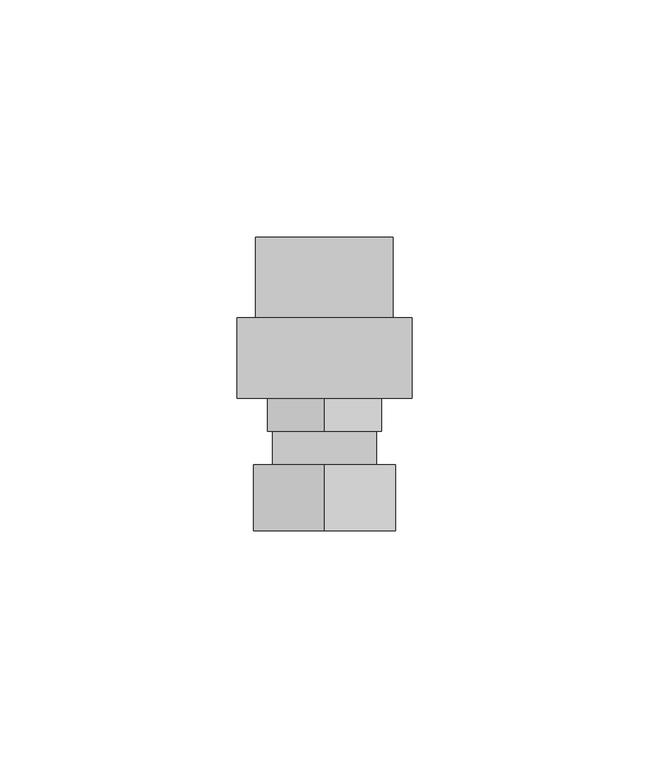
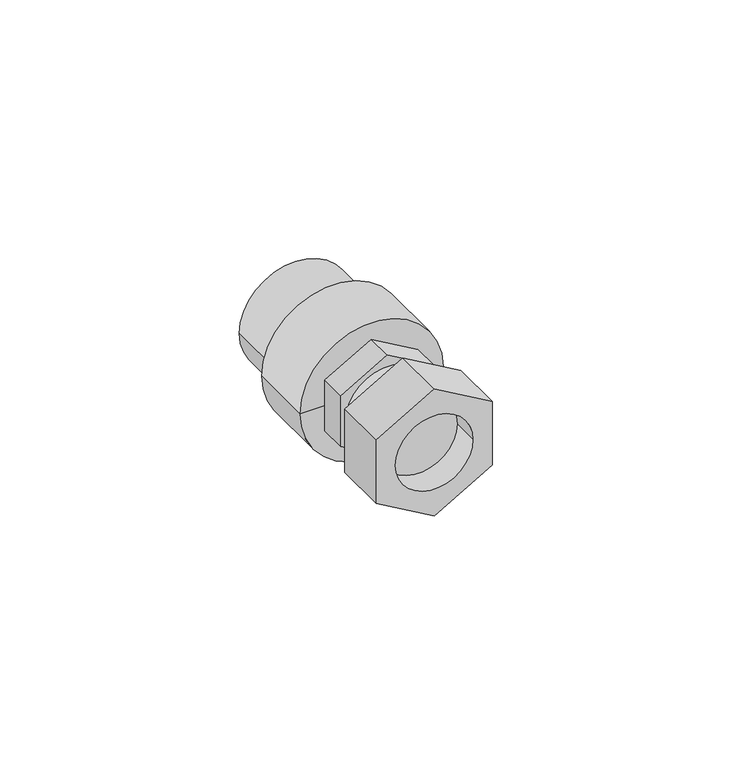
"""IFC4 building model written with IfcOpenShell, lengths in millimetres: pipe fitting geometry, NIRON RED termofusion roscado racor loco : Estándar."""

from ifc_helpers import new_model, si_unit, point, frame, origin, origin_2d, place, context, project, spatial, polyline, circle_curve, trimmed, segment, composite_curve, outline, extrude, source, transform, mapped, element, save
from ifc_brep_helpers import plane_surface, cylinder_surface, revolved_surface, advanced_brep


def pipe_fitting_dbe4a729(model_context):
    return source(origin(), model_context, "Body", "SolidModel", [
        advanced_brep(
        [(15.0, 9.0, -8.660254), (15.0, 9.0, 8.660254), (0.0, 9.0, 17.3205081), (-15.0, 9.0, 8.660254), (-15.0, 9.0, -8.660254), (0.0, 9.0, -17.3205081), (10.0, 9.0, 0.0), (-10.0, 9.0, 0.0), (15.0, 23.0, -8.660254), (0.0, 23.0, -17.3205081), (-15.0, 23.0, -8.660254), (-15.0, 23.0, 8.660254), (0.0, 23.0, 17.3205081), (15.0, 23.0, 8.660254), (-10.0, 16.0570795, 0.0), (10.0, 16.0570795, 0.0)],
        [
            (0, 1),
            (1, 2),
            (2, 3),
            (3, 4),
            (4, 5),
            (5, 0),
            (6, 7, circle_curve(frame((0.0, 9.0, 0.0), z_axis=(0.0, 1.0, 0.0), x_axis=(1.0, 0.0, 0.0)), 10.0)),
            (7, 6, circle_curve(frame((0.0, 9.0, 0.0), z_axis=(0.0, 1.0, 0.0), x_axis=(1.0, 0.0, 0.0)), 10.0)),
            (8, 9),
            (9, 10),
            (10, 11),
            (11, 12),
            (12, 13),
            (13, 8),
            (0, 8),
            (13, 1),
            (12, 2),
            (11, 3),
            (10, 4),
            (9, 5),
            (14, 15, circle_curve(frame((0.0, 16.0570795, 0.0), z_axis=(0.0, -1.0, 0.0), x_axis=(1.0, 0.0, 0.0)), 10.0)),
            (15, 14, circle_curve(frame((0.0, 16.0570795, 0.0), z_axis=(0.0, -1.0, 0.0), x_axis=(1.0, 0.0, 0.0)), 10.0)),
            (14, 7),
            (6, 15),
        ],
        [
            plane_surface(frame((0.0, 9.0, 0.0), z_axis=(0.0, -1.0, 0.0), x_axis=(0.0, 0.0, 1.0))),
            plane_surface(frame((0.0, 23.0, 0.0), z_axis=(0.0, 1.0, 0.0), x_axis=(0.0, 0.0, 1.0))),
            plane_surface(frame((15.0, 9.0, -8.660254), z_axis=(1.0, 0.0, 0.0), x_axis=(0.0, 1.0, 0.0))),
            plane_surface(frame((15.0, 9.0, 8.660254), z_axis=(0.4999999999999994, 0.0, 0.866025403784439), x_axis=(0.0, 1.0, 0.0))),
            plane_surface(frame((0.0, 9.0, 17.3205081), z_axis=(-0.4999999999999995, 0.0, 0.8660254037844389), x_axis=(0.0, 1.0, 0.0))),
            plane_surface(frame((-15.0, 9.0, 8.660254), z_axis=(-1.0, 0.0, 0.0), x_axis=(0.0, 1.0, 0.0))),
            plane_surface(frame((-15.0, 9.0, -8.660254), z_axis=(-0.4999999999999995, 0.0, -0.866025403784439), x_axis=(0.0, 1.0, 0.0))),
            plane_surface(frame((0.0, 9.0, -17.3205081), z_axis=(0.4999999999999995, 0.0, -0.8660254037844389), x_axis=(0.0, 1.0, 0.0))),
            plane_surface(frame((10.0, 16.0570795, 0.0), z_axis=(0.0, -1.0, 0.0), x_axis=(0.0, 0.0, -1.0))),
            revolved_surface(polyline([(10.0, 9.0, 0.0), (10.0, 16.0570795, 0.0)]), (0.0, 16.0570795, 0.0), (0.0, -1.0, 0.0)),
        ],
        [
            (0, [[1, 2, 3, 4, 5, 6], [7, 8]]),
            (1, [[9, 10, 11, 12, 13, 14]]),
            (2, [[-1, 15, -14, 16]]),
            (3, [[-2, -16, -13, 17]]),
            (4, [[-3, -17, -12, 18]]),
            (5, [[-4, -18, -11, 19]]),
            (6, [[-5, -19, -10, 20]]),
            (7, [[-6, -20, -9, -15]]),
            (8, [[21, 22]]),
            (9, [[-21, 23, -7, 24]]),
            (9, [[-22, -24, -8, -23]]),
        ],
    ),
        extrude(outline(polyline([(-6.9282032, 12.0), (6.9282032, 12.0), (13.8564065, 0.0), (6.9282032, -12.0), (-6.9282032, -12.0), (-13.8564065, 0.0), (-6.9282032, 12.0)])), frame((0.0, 30.0, 0.0), z_axis=(0.0, 1.0, 0.0), x_axis=(0.0, 0.0, 1.0)), (0.0, 0.0, 1.0), 7.0),
        extrude(outline(composite_curve([segment(trimmed(circle_curve(origin_2d(), 11.0), [point((0.0, -11.0))], [point((0.0, 11.0))], False, "CARTESIAN"), True, "CONTINUOUS"), segment(trimmed(circle_curve(origin_2d(), 11.0), [point((0.0, 11.0))], [point((0.0, -11.0))], False, "CARTESIAN"), True, "CONTINUOUS")], self_intersect=False)), frame((0.0, 23.0, 0.0), z_axis=(0.0, 1.0, 0.0), x_axis=(0.0, 0.0, 1.0)), (0.0, 0.0, 1.0), 7.0),
        advanced_brep(
        [(14.5, 71.0, 0.0), (-14.5, 71.0, 0.0), (0.0, 71.0, 0.0), (18.5, 37.0, 0.0), (-18.5, 37.0, 0.0), (-18.5, 54.0, 0.0), (18.5, 54.0, 0.0), (0.0, 37.0, 0.0), (14.5, 54.0, 0.0), (-14.5, 54.0, 0.0)],
        [
            (0, 1, circle_curve(frame((0.0, 71.0, 0.0), z_axis=(0.0, 1.0, 0.0), x_axis=(-1.0, 0.0, 0.0)), 14.5)),
            (1, 2),
            (2, 0),
            (1, 0, circle_curve(frame((0.0, 71.0, 0.0), z_axis=(0.0, 1.0, 0.0), x_axis=(-1.0, 0.0, 0.0)), 14.5)),
            (3, 4, circle_curve(frame((0.0, 37.0, 0.0), z_axis=(0.0, 1.0, 0.0), x_axis=(-1.0, 0.0, 0.0)), 18.5)),
            (4, 5),
            (5, 6, circle_curve(frame((0.0, 54.0, 0.0), z_axis=(0.0, -1.0, 0.0), x_axis=(-1.0, 0.0, 0.0)), 18.5)),
            (6, 3),
            (4, 3, circle_curve(frame((0.0, 37.0, 0.0), z_axis=(0.0, 1.0, 0.0), x_axis=(-1.0, 0.0, 0.0)), 18.5)),
            (6, 5, circle_curve(frame((0.0, 54.0, 0.0), z_axis=(0.0, -1.0, 0.0), x_axis=(-1.0, 0.0, 0.0)), 18.5)),
            (7, 4),
            (3, 7),
            (8, 9, circle_curve(frame((0.0, 54.0, 0.0), z_axis=(0.0, 1.0, 0.0), x_axis=(-1.0, 0.0, 0.0)), 14.5)),
            (9, 1),
            (0, 8),
            (9, 8, circle_curve(frame((0.0, 54.0, 0.0), z_axis=(0.0, 1.0, 0.0), x_axis=(-1.0, 0.0, 0.0)), 14.5)),
            (5, 9),
            (8, 6),
        ],
        [
            plane_surface(frame((0.0, 71.0, 0.0), z_axis=(0.0, 1.0, 0.0), x_axis=(-1.0, 0.0, 0.0))),
            cylinder_surface(frame((0.0, 81.0, 0.0), z_axis=(0.0, -1.0, 0.0), x_axis=(-1.0, 0.0, 0.0)), 18.5),
            plane_surface(frame((0.0, 37.0, 0.0), z_axis=(0.0, -1.0, 0.0), x_axis=(-1.0, 0.0, 0.0))),
            cylinder_surface(frame((0.0, 81.0, 0.0), z_axis=(0.0, -1.0, 0.0), x_axis=(-1.0, 0.0, 0.0)), 14.5),
            plane_surface(frame((0.0, 54.0, 0.0), z_axis=(0.0, 1.0, 0.0), x_axis=(-1.0, 0.0, 0.0))),
        ],
        [
            (0, [[1, 2, 3]]),
            (0, [[4, -3, -2]]),
            (1, [[5, 6, 7, 8]]),
            (1, [[9, -8, 10, -6]]),
            (2, [[11, -5, 12]]),
            (2, [[-12, -9, -11]]),
            (3, [[13, 14, -1, 15]]),
            (3, [[16, -15, -4, -14]]),
            (4, [[-7, 17, -13, 18]]),
            (4, [[-10, -18, -16, -17]]),
        ],
    ),
    ])


if __name__ == "__main__":
    model = new_model("IFC4")
    model_context = context("Model", 3, world=origin())
    ifc_project = project(units=[si_unit("LENGTHUNIT", "METRE", prefix="MILLI")], contexts=[model_context])
    site = spatial("IfcSite", under=ifc_project)
    building = spatial("IfcBuilding", under=site)
    placement = place(None, origin())
    pipe_fitting_shape = pipe_fitting_dbe4a729(model_context)
    element("IfcPipeFitting", 1, ObjectType="NIRON RED termofusion roscado racor loco : Estándar", at=placement, inside=building, context=model_context, shape_type="MappedRepresentation", body=[
        mapped(pipe_fitting_shape, transform((0.0, 0.0, 0.0), x_axis=(1.0, 0.0, 0.0), y_axis=(0.0, 1.0, 0.0), z_axis=(0.0, 0.0, 1.0))),
    ])
    save(model, "model.ifc")
